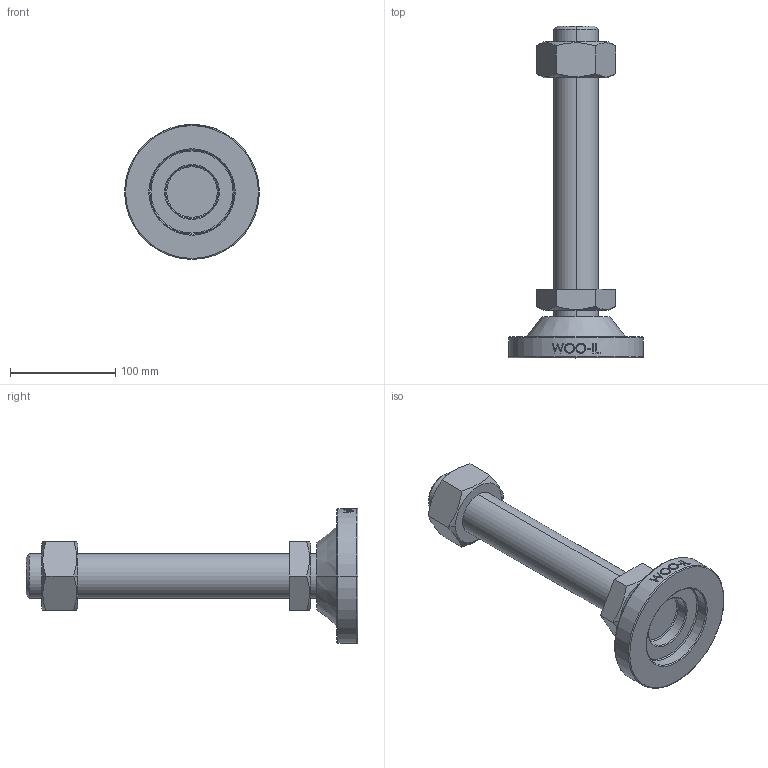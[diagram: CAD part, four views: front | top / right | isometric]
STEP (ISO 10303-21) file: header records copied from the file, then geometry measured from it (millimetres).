
FILE_DESCRIPTION (( 'STEP AP214' ), '1' );
FILE_NAME ('MFU128-M42-250.step', '2021-01-21T06:13:36', ( '' ), ( '' ), 'SwSTEP 2.0', 'SolidWorks 2019', '' );
FILE_SCHEMA (( 'AUTOMOTIVE_DESIGN' ));
Length unit declared in the file: millimetre
Products named in the file (2): MFU128-M42-250
Bounding box: 128 x 315 x 128 mm (x, y, z)
Volume: 769950 mm3; surface area: 98558.2 mm2
Topology: 2 solids, 2 shells, 111 faces, 255 edges, 162 vertices
Faces by surface type: plane 49, cylinder 20, bspline 16, cone 14, torus 12
Entity records: 4773 total; most frequent: CARTESIAN_POINT 2312, ORIENTED_EDGE 510, DIRECTION 471, EDGE_CURVE 255, AXIS2_PLACEMENT_3D 185, VERTEX_POINT 162, EDGE_LOOP 127, ADVANCED_FACE 111
